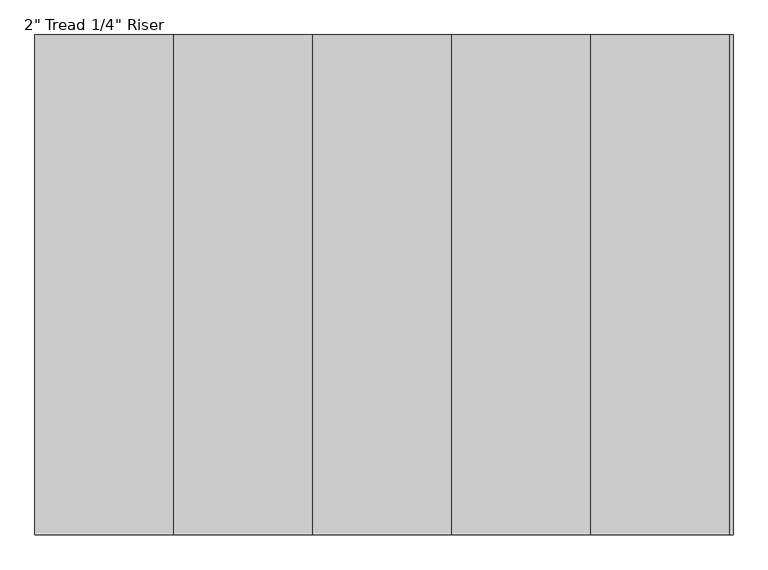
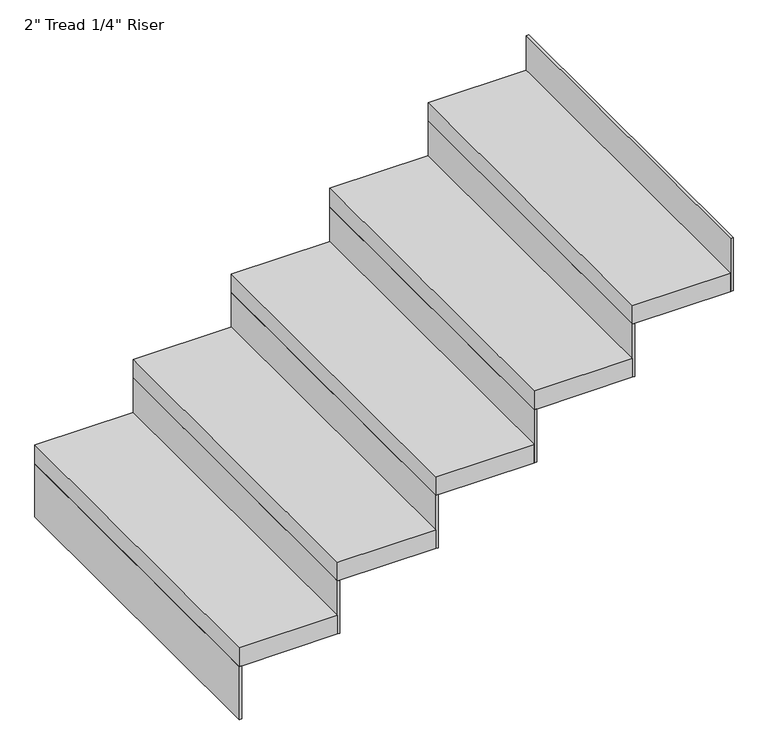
"""IFC4 building model written with IfcOpenShell, lengths in millimetres: stair flight geometry."""

from ifc_helpers import new_model, si_unit, frame, origin, place, context, project, spatial, polyline, outline, extrude, source, transform, mapped, element, save


def stair_flight_44d7aaed(model_context):
    return source(origin(), model_context, "Body", "SweptSolid", [
        extrude(outline(polyline([(113733.4236551, -2391.9711813), (113727.0736551, -2391.9711813), (113727.0736551, -1477.5711813), (113733.4236551, -1477.5711813), (113733.4236551, -2391.9711813)])), frame((0.0, 0.0, 2126.3428571), z_axis=(0.0, 0.0, 1.0), x_axis=(1.0, 0.0, 0.0)), (0.0, 0.0, 1.0), 145.1428571),
        extrude(outline(polyline([(113981.0736551, -1477.5711813), (113981.0736551, -2391.9711813), (113727.0736551, -2391.9711813), (113727.0736551, -1477.5711813), (113981.0736551, -1477.5711813)])), frame((0.0, 0.0, 2271.4857143), z_axis=(0.0, 0.0, 1.0), x_axis=(1.0, 0.0, 0.0)), (0.0, 0.0, 1.0), 50.8),
        extrude(outline(polyline([(113987.4236551, -2391.9711813), (113981.0736551, -2391.9711813), (113981.0736551, -1477.5711813), (113987.4236551, -1477.5711813), (113987.4236551, -2391.9711813)])), frame((0.0, 0.0, 2271.4857143), z_axis=(0.0, 0.0, 1.0), x_axis=(1.0, 0.0, 0.0)), (0.0, 0.0, 1.0), 145.1428571),
        extrude(outline(polyline([(114235.0736551, -1477.5711813), (114235.0736551, -2391.9711813), (113981.0736551, -2391.9711813), (113981.0736551, -1477.5711813), (114235.0736551, -1477.5711813)])), frame((0.0, 0.0, 2416.6285714), z_axis=(0.0, 0.0, 1.0), x_axis=(1.0, 0.0, 0.0)), (0.0, 0.0, 1.0), 50.8),
        extrude(outline(polyline([(114241.4236551, -2391.9711813), (114235.0736551, -2391.9711813), (114235.0736551, -1477.5711813), (114241.4236551, -1477.5711813), (114241.4236551, -2391.9711813)])), frame((0.0, 0.0, 2416.6285714), z_axis=(0.0, 0.0, 1.0), x_axis=(1.0, 0.0, 0.0)), (0.0, 0.0, 1.0), 145.1428571),
        extrude(outline(polyline([(114489.0736551, -1477.5711813), (114489.0736551, -2391.9711813), (114235.0736551, -2391.9711813), (114235.0736551, -1477.5711813), (114489.0736551, -1477.5711813)])), frame((0.0, 0.0, 2561.7714286), z_axis=(0.0, 0.0, 1.0), x_axis=(1.0, 0.0, 0.0)), (0.0, 0.0, 1.0), 50.8),
        extrude(outline(polyline([(114495.4236551, -2391.9711813), (114489.0736551, -2391.9711813), (114489.0736551, -1477.5711813), (114495.4236551, -1477.5711813), (114495.4236551, -2391.9711813)])), frame((0.0, 0.0, 2561.7714286), z_axis=(0.0, 0.0, 1.0), x_axis=(1.0, 0.0, 0.0)), (0.0, 0.0, 1.0), 145.1428571),
        extrude(outline(polyline([(114743.0736551, -1477.5711813), (114743.0736551, -2391.9711813), (114489.0736551, -2391.9711813), (114489.0736551, -1477.5711813), (114743.0736551, -1477.5711813)])), frame((0.0, 0.0, 2706.9142857), z_axis=(0.0, 0.0, 1.0), x_axis=(1.0, 0.0, 0.0)), (0.0, 0.0, 1.0), 50.8),
        extrude(outline(polyline([(114749.4236551, -2391.9711813), (114743.0736551, -2391.9711813), (114743.0736551, -1477.5711813), (114749.4236551, -1477.5711813), (114749.4236551, -2391.9711813)])), frame((0.0, 0.0, 2706.9142857), z_axis=(0.0, 0.0, 1.0), x_axis=(1.0, 0.0, 0.0)), (0.0, 0.0, 1.0), 145.1428571),
        extrude(outline(polyline([(115003.4236551, -2391.9711813), (114997.0736551, -2391.9711813), (114997.0736551, -1477.5711813), (115003.4236551, -1477.5711813), (115003.4236551, -2391.9711813)])), frame((0.0, 0.0, 2852.0571429), z_axis=(0.0, 0.0, 1.0), x_axis=(1.0, 0.0, 0.0)), (0.0, 0.0, 1.0), 145.1428571),
        extrude(outline(polyline([(114997.0736551, -1477.5711813), (114997.0736551, -2391.9711813), (114743.0736551, -2391.9711813), (114743.0736551, -1477.5711813), (114997.0736551, -1477.5711813)])), frame((0.0, 0.0, 2852.0571429), z_axis=(0.0, 0.0, 1.0), x_axis=(1.0, 0.0, 0.0)), (0.0, 0.0, 1.0), 50.8),
    ])


if __name__ == "__main__":
    model = new_model("IFC4")
    model_context = context("Model", 3, world=origin())
    ifc_project = project(units=[si_unit("LENGTHUNIT", "METRE", prefix="MILLI")], contexts=[model_context])
    site = spatial("IfcSite", under=ifc_project)
    building = spatial("IfcBuilding", under=site)
    placement = place(None, origin())
    stair_flight_shape = stair_flight_44d7aaed(model_context)
    element("IfcStairFlight", 1, ObjectType="2\" Tread 1/4\" Riser", at=placement, inside=building, context=model_context, shape_type="MappedRepresentation", body=[
        mapped(stair_flight_shape, transform((0.0, 0.0, 0.0), x_axis=(1.0, 0.0, 0.0), y_axis=(0.0, 1.0, 0.0), z_axis=(0.0, 0.0, 1.0))),
    ])
    save(model, "model.ifc")
